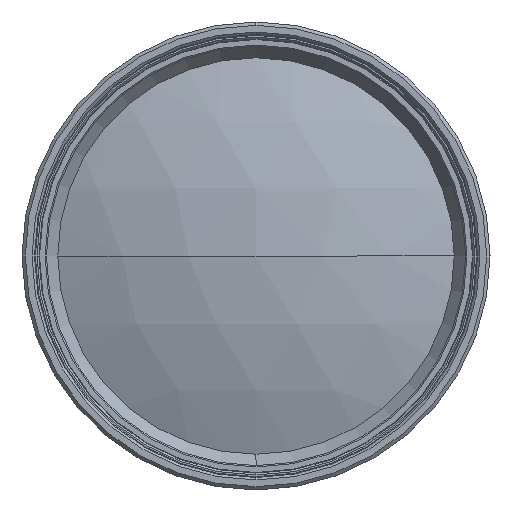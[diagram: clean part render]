
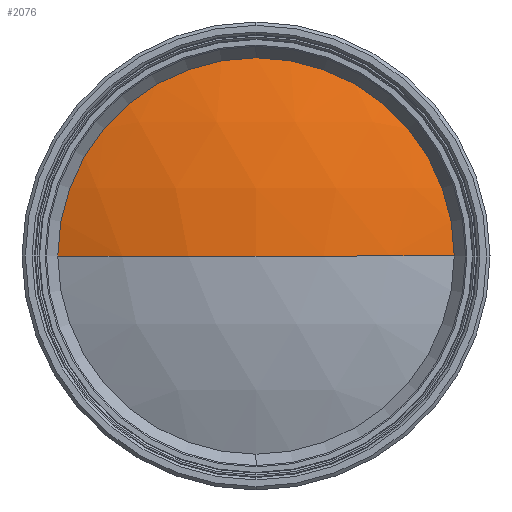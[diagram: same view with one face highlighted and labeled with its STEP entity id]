
A CAD part, left-side view. The second image highlights one B-rep face of the part: STEP entity #2076.
In plain terms, the highlighted spherical face has radius 80.1 mm.
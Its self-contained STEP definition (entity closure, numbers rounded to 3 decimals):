
#155 = EDGE_CURVE ( 'NONE', #3370, #1220, #1835, .T. ) ;
#331 = DIRECTION ( 'NONE',  ( 1., 0., 0. ) ) ;
#475 = ORIENTED_EDGE ( 'NONE', *, *, #485, .T. ) ;
#485 = EDGE_CURVE ( 'NONE', #2212, #1674, #3449, .T. ) ;
#642 = EDGE_CURVE ( 'NONE', #2212, #3370, #2278, .T. ) ;
#754 = DIRECTION ( 'NONE',  ( 0., 0., -1. ) ) ;
#889 = DIRECTION ( 'NONE',  ( 0., 0., 1. ) ) ;
#1168 = CARTESIAN_POINT ( 'NONE',  ( -98.802, 0., 0. ) ) ;
#1220 = VERTEX_POINT ( 'NONE', #1285 ) ;
#1276 = AXIS2_PLACEMENT_3D ( 'NONE', #3169, #3417, #3470 ) ;
#1285 = CARTESIAN_POINT ( 'NONE',  ( -173.212, 0., 29.65 ) ) ;
#1535 = CARTESIAN_POINT ( 'NONE',  ( -173.212, 0., 0. ) ) ;
#1593 = DIRECTION ( 'NONE',  ( 0., -1., 0. ) ) ;
#1674 = VERTEX_POINT ( 'NONE', #3410 ) ;
#1718 = FACE_OUTER_BOUND ( 'NONE', #2509, .T. ) ;
#1765 = CIRCLE ( 'NONE', #2632, 29.65 ) ;
#1787 = AXIS2_PLACEMENT_3D ( 'NONE', #1168, #889, #3369 ) ;
#1835 = CIRCLE ( 'NONE', #2162, 29.65 ) ;
#1939 = DIRECTION ( 'NONE',  ( 0., 0., 1. ) ) ;
#1993 = CARTESIAN_POINT ( 'NONE',  ( -173.212, 0., 0. ) ) ;
#2046 = ORIENTED_EDGE ( 'NONE', *, *, #642, .F. ) ;
#2062 = CARTESIAN_POINT ( 'NONE',  ( -178.902, 0., 0. ) ) ;
#2076 = ADVANCED_FACE ( 'NONE', ( #1718 ), #3269, .T. ) ;
#2162 = AXIS2_PLACEMENT_3D ( 'NONE', #1535, #2370, #754 ) ;
#2212 = VERTEX_POINT ( 'NONE', #2062 ) ;
#2276 = DIRECTION ( 'NONE',  ( 0., 0., -1. ) ) ;
#2278 = CIRCLE ( 'NONE', #1276, 80.1 ) ;
#2292 = EDGE_CURVE ( 'NONE', #1220, #1674, #1765, .T. ) ;
#2370 = DIRECTION ( 'NONE',  ( 1., 0., 0. ) ) ;
#2437 = AXIS2_PLACEMENT_3D ( 'NONE', #2485, #1939, #1593 ) ;
#2485 = CARTESIAN_POINT ( 'NONE',  ( -98.802, 0., 0. ) ) ;
#2509 = EDGE_LOOP ( 'NONE', ( #2046, #475, #3309, #3262 ) ) ;
#2632 = AXIS2_PLACEMENT_3D ( 'NONE', #1993, #331, #2276 ) ;
#3169 = CARTESIAN_POINT ( 'NONE',  ( -98.802, 0., 0. ) ) ;
#3262 = ORIENTED_EDGE ( 'NONE', *, *, #155, .F. ) ;
#3269 = SPHERICAL_SURFACE ( 'NONE', #1787, 80.1 ) ;
#3309 = ORIENTED_EDGE ( 'NONE', *, *, #2292, .F. ) ;
#3369 = DIRECTION ( 'NONE',  ( 0., 1., 0. ) ) ;
#3370 = VERTEX_POINT ( 'NONE', #3373 ) ;
#3373 = CARTESIAN_POINT ( 'NONE',  ( -173.212, 29.65, 0. ) ) ;
#3410 = CARTESIAN_POINT ( 'NONE',  ( -173.212, -29.65, 0. ) ) ;
#3417 = DIRECTION ( 'NONE',  ( 0., 0., -1. ) ) ;
#3449 = CIRCLE ( 'NONE', #2437, 80.1 ) ;
#3470 = DIRECTION ( 'NONE',  ( -1., 0., 0. ) ) ;
